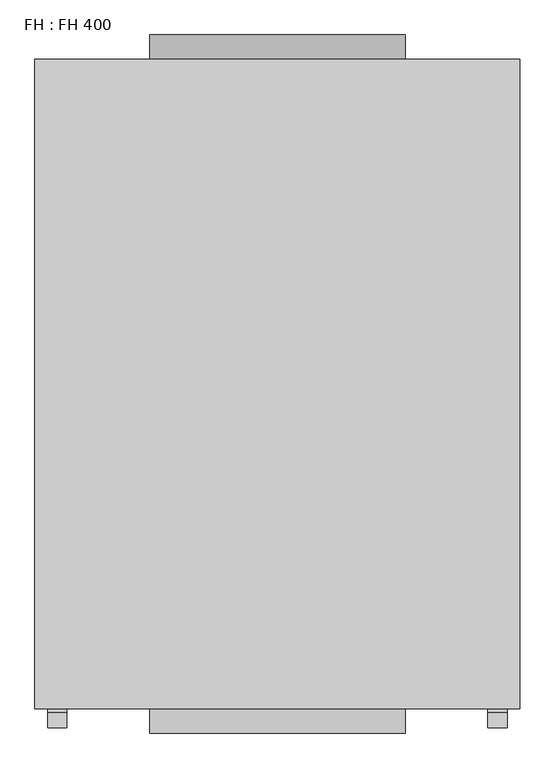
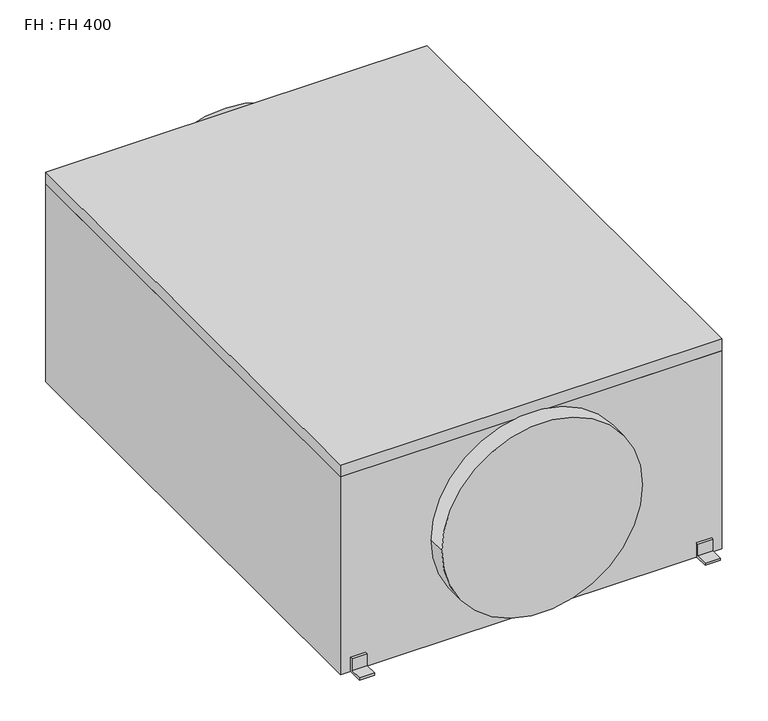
"""IFC4 building model written with IfcOpenShell, lengths in millimetres: proxy geometry, FH : FH 400."""

from ifc_helpers import new_model, si_unit, point, frame, frame_2d, origin, origin_with_axes, place, context, project, spatial, polyline, circle_curve, trimmed, segment, composite_curve, outline, extrude, source, transform, mapped, element, save


def fh_fh_400_6e0c7af0(model_context):
    return source(origin(), model_context, "Body", "SweptSolid", [
        extrude(outline(polyline([(380.0, 509.0), (380.0, -509.0), (-380.0, -509.0), (-380.0, 509.0), (380.0, 509.0)])), frame((0.0, 0.0, 417.0), z_axis=(0.0, 0.0, 1.0), x_axis=(1.0, 0.0, 0.0)), (0.0, 0.0, 1.0), 25.0),
        extrude(outline(polyline([(-509.0, 30.0), (-509.0, 0.0), (-539.0, 0.0), (-539.0, 5.0), (-514.0, 5.0), (-514.0, 30.0), (-509.0, 30.0)])), frame((330.0, 0.0, 0.0), z_axis=(1.0, 0.0, 0.0), x_axis=(0.0, 1.0, 0.0)), (0.0, 0.0, 1.0), 30.0),
        extrude(outline(polyline([(-509.0, 30.0), (-509.0, 0.0), (-539.0, 0.0), (-539.0, 5.0), (-514.0, 5.0), (-514.0, 30.0), (-509.0, 30.0)])), frame((-360.0, 0.0, 0.0), z_axis=(1.0, 0.0, 0.0), x_axis=(0.0, 1.0, 0.0)), (0.0, 0.0, 1.0), 30.0),
        extrude(outline(polyline([(380.0, 509.0), (380.0, -509.0), (-380.0, -509.0), (-380.0, 509.0), (380.0, 509.0)])), origin_with_axes(), (0.0, 0.0, 1.0), 417.0),
        extrude(outline(polyline([(509.0, 30.0), (514.0, 30.0), (514.0, 5.0), (539.0, 5.0), (539.0, 0.0), (509.0, 0.0), (509.0, 30.0)])), frame((151.0, 0.0, 0.0), z_axis=(1.0, 0.0, 0.0), x_axis=(0.0, 1.0, 0.0)), (0.0, 0.0, 1.0), 25.0),
        extrude(outline(polyline([(509.0, 30.0), (514.0, 30.0), (514.0, 5.0), (539.0, 5.0), (539.0, 0.0), (509.0, 0.0), (509.0, 30.0)])), frame((-176.0, 0.0, 0.0), z_axis=(1.0, 0.0, 0.0), x_axis=(0.0, 1.0, 0.0)), (0.0, 0.0, 1.0), 25.0),
        extrude(outline(composite_curve([segment(trimmed(circle_curve(frame_2d((221.0, 0.0)), 200.0), [point((221.0, -200.0))], [point((221.0, 200.0))], False, "CARTESIAN"), True, "CONTINUOUS"), segment(trimmed(circle_curve(frame_2d((221.0, 0.0)), 200.0), [point((221.0, 200.0))], [point((221.0, -200.0))], False, "CARTESIAN"), True, "CONTINUOUS")], self_intersect=False)), frame((0.0, -547.0, 0.0), z_axis=(0.0, 1.0, 0.0), x_axis=(0.0, 0.0, 1.0)), (0.0, 0.0, 1.0), 38.0),
        extrude(outline(composite_curve([segment(trimmed(circle_curve(frame_2d((221.0, 0.0)), 200.0), [point((221.0, -200.0))], [point((221.0, 200.0))], False, "CARTESIAN"), True, "CONTINUOUS"), segment(trimmed(circle_curve(frame_2d((221.0, 0.0)), 200.0), [point((221.0, 200.0))], [point((221.0, -200.0))], False, "CARTESIAN"), True, "CONTINUOUS")], self_intersect=False)), frame((0.0, 509.0, 0.0), z_axis=(0.0, 1.0, 0.0), x_axis=(0.0, 0.0, 1.0)), (0.0, 0.0, 1.0), 38.0),
    ])


if __name__ == "__main__":
    model = new_model("IFC4")
    model_context = context("Model", 3, world=origin())
    ifc_project = project(units=[si_unit("LENGTHUNIT", "METRE", prefix="MILLI")], contexts=[model_context])
    site = spatial("IfcSite", under=ifc_project)
    building = spatial("IfcBuilding", under=site)
    placement = place(None, origin())
    fh_fh_400_shape = fh_fh_400_6e0c7af0(model_context)
    element("IfcBuildingElementProxy", 1, Name="FH : FH 400", ObjectType="FH : FH 400", at=placement, inside=building, context=model_context, shape_type="MappedRepresentation", body=[
        mapped(fh_fh_400_shape, transform((0.0, 0.0, 0.0), x_axis=(1.0, 0.0, 0.0), y_axis=(0.0, 1.0, 0.0), z_axis=(0.0, 0.0, 1.0))),
    ])
    save(model, "model.ifc")
